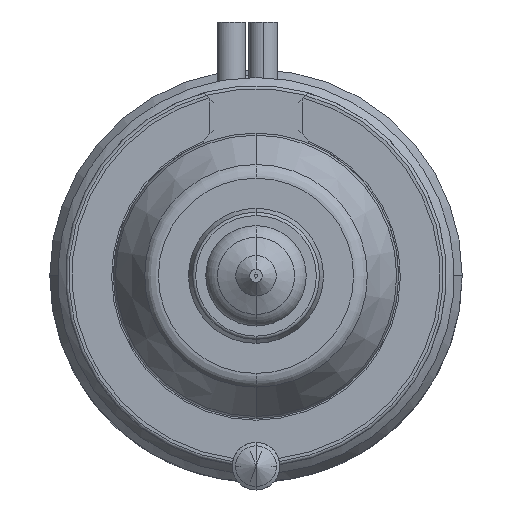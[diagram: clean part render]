
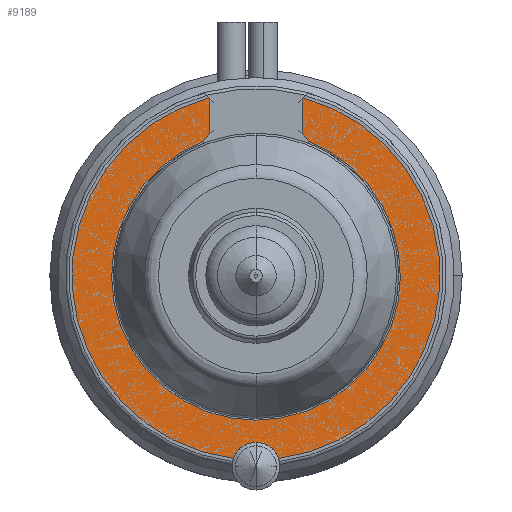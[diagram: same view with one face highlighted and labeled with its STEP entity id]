
A CAD part, front view. The second image highlights one B-rep face of the part: STEP entity #9189.
In plain terms, the highlighted planar face has unit normal (0, -1, 0).
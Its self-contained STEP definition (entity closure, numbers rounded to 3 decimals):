
#595=DIRECTION('',(0.707,0.,-0.707));
#596=VECTOR('',#595,0.092);
#597=CARTESIAN_POINT('',(-2.965,-22.,11.215));
#598=LINE('',#597,#596);
#1554=CARTESIAN_POINT('',(0.,-22.,6.2));
#1555=DIRECTION('',(0.,1.,0.));
#1556=DIRECTION('',(0.725,0.,0.689));
#1557=AXIS2_PLACEMENT_3D('',#1554,#1555,#1556);
#1569=CARTESIAN_POINT('',(0.,-22.,-12.));
#1570=DIRECTION('',(0.,1.,0.));
#1571=DIRECTION('',(-0.946,0.,0.325));
#1572=AXIS2_PLACEMENT_3D('',#1569,#1570,#1571);
#1588=CARTESIAN_POINT('',(0.,-22.,0.));
#1589=DIRECTION('',(0.,1.,0.));
#1590=DIRECTION('',(-0.122,0.,-0.992));
#1591=AXIS2_PLACEMENT_3D('',#1588,#1589,#1590);
#1600=CARTESIAN_POINT('',(0.,-22.,0.));
#1601=DIRECTION('',(0.,1.,0.));
#1602=DIRECTION('',(0.256,0.,0.967));
#1603=AXIS2_PLACEMENT_3D('',#1600,#1601,#1602);
#1616=DIRECTION('',(-0.707,0.,-0.707));
#1617=VECTOR('',#1616,0.092);
#1618=CARTESIAN_POINT('',(2.965,-22.,11.215));
#1619=LINE('',#1618,#1617);
#1624=DIRECTION('',(0.,0.,-1.));
#1625=VECTOR('',#1624,2.195);
#1626=CARTESIAN_POINT('',(2.9,-22.,11.15));
#1627=LINE('',#1626,#1625);
#1655=DIRECTION('',(0.,0.,1.));
#1656=VECTOR('',#1655,2.195);
#1657=CARTESIAN_POINT('',(-2.9,-22.,8.955));
#1658=LINE('',#1657,#1656);
#1690=CARTESIAN_POINT('',(0.,-22.,6.2));
#1691=DIRECTION('',(0.,1.,0.));
#1692=DIRECTION('',(-0.82,0.,0.572));
#1693=AXIS2_PLACEMENT_3D('',#1690,#1691,#1692);
#1705=CARTESIAN_POINT('',(0.,-22.,0.));
#1706=DIRECTION('',(0.,-1.,0.));
#1707=DIRECTION('',(-0.361,0.,0.933));
#1708=AXIS2_PLACEMENT_3D('',#1705,#1706,#1707);
#7301=CARTESIAN_POINT('',(2.965,-22.,11.215));
#7302=CARTESIAN_POINT('',(2.9,-22.,11.15));
#7303=VERTEX_POINT('',#7301);
#7304=VERTEX_POINT('',#7302);
#7309=CARTESIAN_POINT('',(-2.965,-22.,11.215));
#7310=CARTESIAN_POINT('',(-2.9,-22.,11.15));
#7311=VERTEX_POINT('',#7309);
#7312=VERTEX_POINT('',#7310);
#7347=CARTESIAN_POINT('',(2.9,-22.,8.955));
#7348=CARTESIAN_POINT('',(3.281,-22.,8.488));
#7349=VERTEX_POINT('',#7347);
#7350=VERTEX_POINT('',#7348);
#7351=CARTESIAN_POINT('',(-3.281,-22.,8.488));
#7352=CARTESIAN_POINT('',(-2.9,-22.,8.955));
#7353=VERTEX_POINT('',#7351);
#7354=VERTEX_POINT('',#7352);
#7496=CARTESIAN_POINT('',(-1.419,-22.,-11.513));
#7497=CARTESIAN_POINT('',(1.419,-22.,-11.513));
#7498=VERTEX_POINT('',#7496);
#7499=VERTEX_POINT('',#7497);
#9165=CARTESIAN_POINT('',(0.,-22.,0.));
#9166=DIRECTION('',(0.,-1.,0.));
#9167=DIRECTION('',(-1.,0.,0.));
#9168=AXIS2_PLACEMENT_3D('',#9165,#9166,#9167);
#9169=PLANE('',#9168);
#9170=ORIENTED_EDGE('',*,*,#8652,.F.);
#9172=ORIENTED_EDGE('',*,*,#9171,.T.);
#9173=ORIENTED_EDGE('',*,*,#8772,.T.);
#9175=ORIENTED_EDGE('',*,*,#9174,.F.);
#9177=ORIENTED_EDGE('',*,*,#9176,.F.);
#9179=ORIENTED_EDGE('',*,*,#9178,.T.);
#9180=ORIENTED_EDGE('',*,*,#9144,.F.);
#9182=ORIENTED_EDGE('',*,*,#9181,.F.);
#9184=ORIENTED_EDGE('',*,*,#9183,.F.);
#9186=ORIENTED_EDGE('',*,*,#9185,.T.);
#9187=EDGE_LOOP('',(#9170,#9172,#9173,#9175,#9177,#9179,#9180,#9182,#9184,
#9186));
#9188=FACE_OUTER_BOUND('',#9187,.F.);
#9189=ADVANCED_FACE('',(#9188),#9169,.T.);
#1558=CIRCLE('',#1557,4.);
#1573=CIRCLE('',#1572,1.5);
#1592=CIRCLE('',#1591,11.6);
#1604=CIRCLE('',#1603,11.6);
#1694=CIRCLE('',#1693,4.);
#1709=CIRCLE('',#1708,9.1);
#8652=EDGE_CURVE('',#7498,#7499,#1573,.T.);
#8772=EDGE_CURVE('',#7311,#7312,#598,.T.);
#9144=EDGE_CURVE('',#7349,#7350,#1558,.T.);
#9171=EDGE_CURVE('',#7498,#7311,#1592,.T.);
#9174=EDGE_CURVE('',#7354,#7312,#1658,.T.);
#9176=EDGE_CURVE('',#7353,#7354,#1694,.T.);
#9178=EDGE_CURVE('',#7353,#7350,#1709,.T.);
#9181=EDGE_CURVE('',#7304,#7349,#1627,.T.);
#9183=EDGE_CURVE('',#7303,#7304,#1619,.T.);
#9185=EDGE_CURVE('',#7303,#7499,#1604,.T.);
